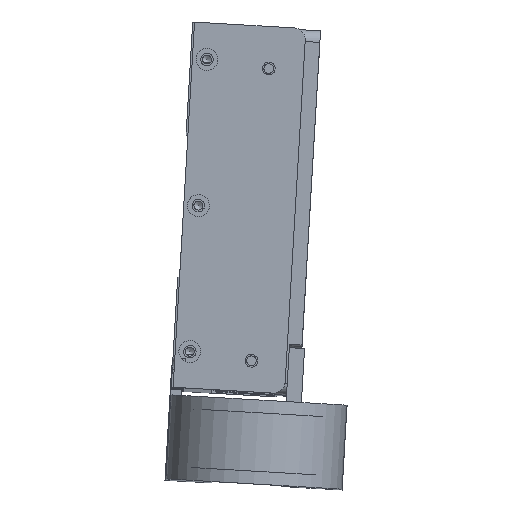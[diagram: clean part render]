
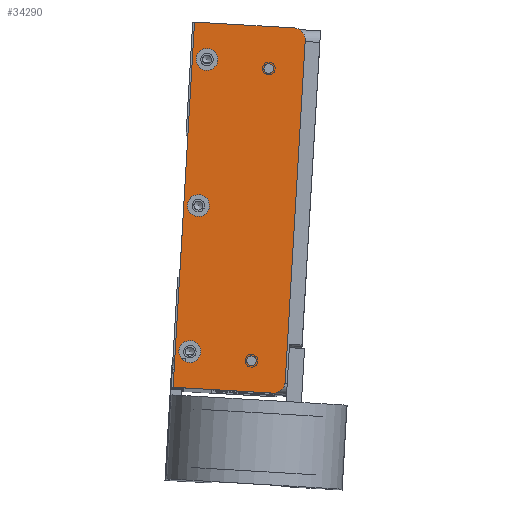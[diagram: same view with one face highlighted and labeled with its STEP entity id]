
A CAD part, top view. The second image highlights one B-rep face of the part: STEP entity #34290.
In plain terms, the highlighted planar face has unit normal (0, 0, 1) as drawn and (0, -1, 0) by its records, which use the part's own axes.
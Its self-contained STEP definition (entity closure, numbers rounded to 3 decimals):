
#1038=PLANE($,#37464);
#2302=FACE_BOUND($,#6362,.T.);
#2303=FACE_BOUND($,#6363,.T.);
#2304=FACE_BOUND($,#6364,.T.);
#2305=FACE_BOUND($,#6365,.T.);
#2306=FACE_BOUND($,#6366,.T.);
#2307=FACE_BOUND($,#6367,.T.);
#6362=EDGE_LOOP($,(#27876));
#6363=EDGE_LOOP($,(#27877));
#6364=EDGE_LOOP($,(#27878));
#6365=EDGE_LOOP($,(#27879));
#6366=EDGE_LOOP($,(#27880));
#6367=EDGE_LOOP($,(#27881,#27882,#27883,#27884,#27885,#27886));
#8840=LINE($,#55273,#11723);
#8843=LINE($,#55289,#11726);
#8844=LINE($,#55291,#11727);
#8845=LINE($,#55293,#11728);
#11723=VECTOR($,#44529,93.65);
#11726=VECTOR($,#44544,27.325);
#11727=VECTOR($,#44545,100.);
#11728=VECTOR($,#44546,27.325);
#14600=CIRCLE($,#37461,3.175);
#14602=CIRCLE($,#37465,3.);
#14603=CIRCLE($,#37466,3.);
#14604=CIRCLE($,#37467,3.);
#14605=CIRCLE($,#37468,1.321);
#14606=CIRCLE($,#37469,1.321);
#14607=CIRCLE($,#37470,3.175);
#16783=VERTEX_POINT($,#55263);
#16784=VERTEX_POINT($,#55264);
#16787=VERTEX_POINT($,#55272);
#16789=VERTEX_POINT($,#55278);
#16790=VERTEX_POINT($,#55280);
#16791=VERTEX_POINT($,#55282);
#16792=VERTEX_POINT($,#55284);
#16793=VERTEX_POINT($,#55286);
#16794=VERTEX_POINT($,#55288);
#16795=VERTEX_POINT($,#55290);
#16796=VERTEX_POINT($,#55292);
#20789=EDGE_CURVE($,#16783,#16784,#14600,.T.);
#20793=EDGE_CURVE($,#16784,#16787,#8840,.T.);
#20796=EDGE_CURVE($,#16789,#16789,#14602,.T.);
#20797=EDGE_CURVE($,#16790,#16790,#14603,.T.);
#20798=EDGE_CURVE($,#16791,#16791,#14604,.T.);
#20799=EDGE_CURVE($,#16792,#16792,#14605,.T.);
#20800=EDGE_CURVE($,#16793,#16793,#14606,.T.);
#20801=EDGE_CURVE($,#16783,#16794,#8843,.T.);
#20802=EDGE_CURVE($,#16794,#16795,#8844,.T.);
#20803=EDGE_CURVE($,#16795,#16796,#8845,.T.);
#20804=EDGE_CURVE($,#16787,#16796,#14607,.T.);
#27876=ORIENTED_EDGE($,*,*,#20796,.T.);
#27877=ORIENTED_EDGE($,*,*,#20797,.T.);
#27878=ORIENTED_EDGE($,*,*,#20798,.T.);
#27879=ORIENTED_EDGE($,*,*,#20799,.T.);
#27880=ORIENTED_EDGE($,*,*,#20800,.T.);
#27881=ORIENTED_EDGE($,*,*,#20789,.F.);
#27882=ORIENTED_EDGE($,*,*,#20801,.T.);
#27883=ORIENTED_EDGE($,*,*,#20802,.T.);
#27884=ORIENTED_EDGE($,*,*,#20803,.T.);
#27885=ORIENTED_EDGE($,*,*,#20804,.F.);
#27886=ORIENTED_EDGE($,*,*,#20793,.F.);
#34290=ADVANCED_FACE($,(#2302,#2303,#2304,#2305,#2306,#2307),#1038,.T.);
#37461=AXIS2_PLACEMENT_3D($,#55265,#44521,#44522);
#37464=AXIS2_PLACEMENT_3D($,#55277,#44532,#44533);
#37465=AXIS2_PLACEMENT_3D($,#55279,#44534,#44535);
#37466=AXIS2_PLACEMENT_3D($,#55281,#44536,#44537);
#37467=AXIS2_PLACEMENT_3D($,#55283,#44538,#44539);
#37468=AXIS2_PLACEMENT_3D($,#55285,#44540,#44541);
#37469=AXIS2_PLACEMENT_3D($,#55287,#44542,#44543);
#37470=AXIS2_PLACEMENT_3D($,#55294,#44547,#44548);
#44521=DIRECTION('center_axis',(0.,1.,0.));
#44522=DIRECTION('ref_axis',(0.707,0.,0.707));
#44529=DIRECTION($,(0.,0.,-1.));
#44532=DIRECTION('center_axis',(0.,-1.,0.));
#44533=DIRECTION('ref_axis',(0.,0.,-1.));
#44534=DIRECTION('center_axis',(0.,1.,0.));
#44535=DIRECTION('ref_axis',(1.,0.,0.));
#44536=DIRECTION('center_axis',(0.,1.,0.));
#44537=DIRECTION('ref_axis',(1.,0.,0.));
#44538=DIRECTION('center_axis',(0.,1.,0.));
#44539=DIRECTION('ref_axis',(1.,0.,0.));
#44540=DIRECTION('center_axis',(0.,1.,0.));
#44541=DIRECTION('ref_axis',(1.,0.,0.));
#44542=DIRECTION('center_axis',(0.,1.,0.));
#44543=DIRECTION('ref_axis',(1.,0.,0.));
#44544=DIRECTION($,(-1.,0.,0.));
#44545=DIRECTION($,(0.,0.,-1.));
#44546=DIRECTION($,(1.,0.,0.));
#44547=DIRECTION('center_axis',(0.,1.,0.));
#44548=DIRECTION('ref_axis',(0.707,0.,-0.707));
#55263=CARTESIAN_POINT('',(12.075,-2.5,50.));
#55264=CARTESIAN_POINT('',(15.25,-2.5,46.825));
#55265=CARTESIAN_POINT('Origin',(12.075,-2.5,46.825));
#55272=CARTESIAN_POINT('',(15.25,-2.5,-46.825));
#55273=CARTESIAN_POINT($,(15.25,-2.5,0.));
#55277=CARTESIAN_POINT('Origin',(15.25,-2.5,0.));
#55278=CARTESIAN_POINT('',(-8.25,-2.5,0.));
#55279=CARTESIAN_POINT('Origin',(-11.25,-2.5,0.));
#55280=CARTESIAN_POINT('',(-8.25,-2.5,40.));
#55281=CARTESIAN_POINT('Origin',(-11.25,-2.5,40.));
#55282=CARTESIAN_POINT('',(-8.25,-2.5,-40.));
#55283=CARTESIAN_POINT('Origin',(-11.25,-2.5,-40.));
#55284=CARTESIAN_POINT('',(7.071,-2.5,38.5));
#55285=CARTESIAN_POINT('Origin',(5.75,-2.5,38.5));
#55286=CARTESIAN_POINT('',(7.037,-2.5,-41.5));
#55287=CARTESIAN_POINT('Origin',(5.716,-2.5,-41.5));
#55288=CARTESIAN_POINT('',(-15.25,-2.5,50.));
#55289=CARTESIAN_POINT($,(15.25,-2.5,50.));
#55290=CARTESIAN_POINT('',(-15.25,-2.5,-50.));
#55291=CARTESIAN_POINT($,(-15.25,-2.5,0.));
#55292=CARTESIAN_POINT('',(12.075,-2.5,-50.));
#55293=CARTESIAN_POINT($,(15.25,-2.5,-50.));
#55294=CARTESIAN_POINT('Origin',(12.075,-2.5,-46.825));
